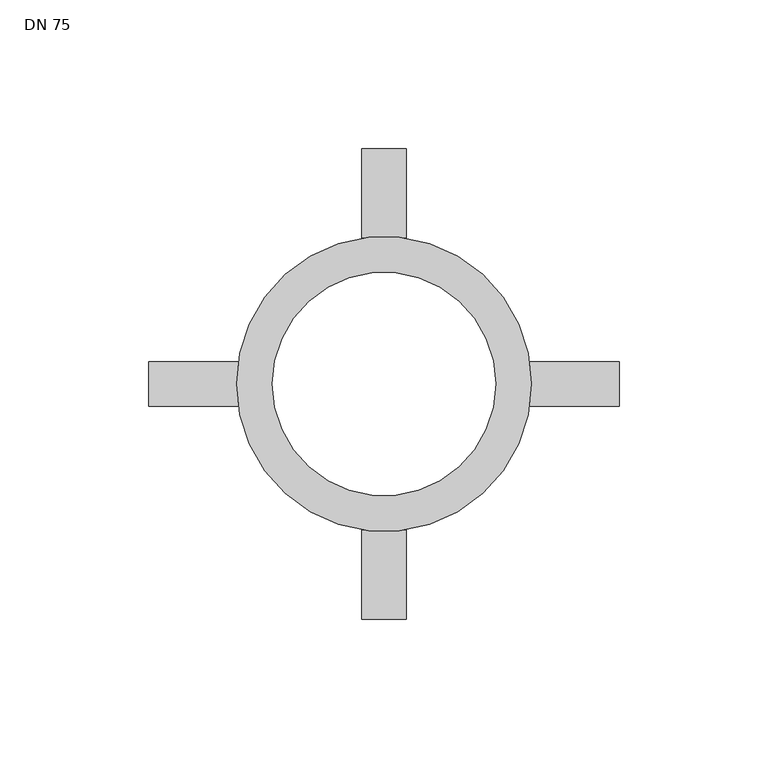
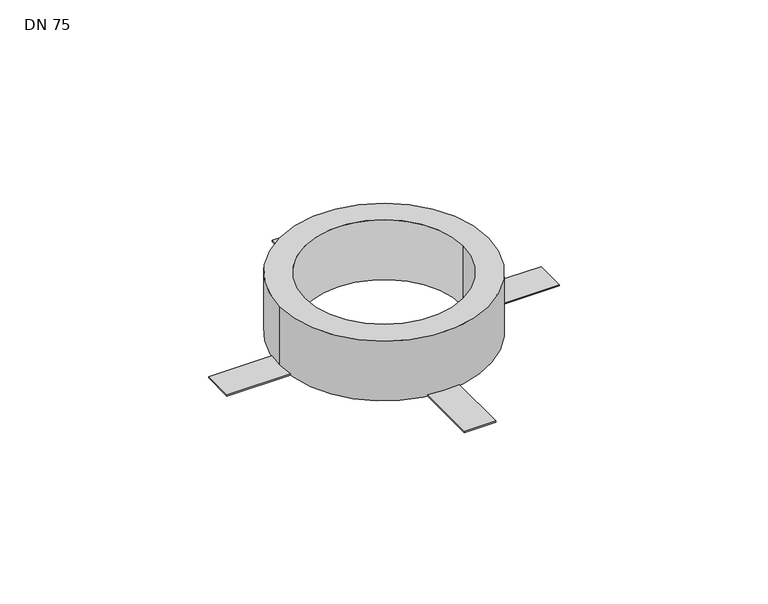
"""IFC4 building model written with IfcOpenShell, lengths in millimetres: proxy geometry, SE_AS+_Fire_Collar_For_Ceilings_Wavin : DN 75."""

from ifc_helpers import new_model, si_unit, point, origin, origin_with_axes, origin_2d, place, context, project, spatial, polyline, circle_curve, trimmed, segment, composite_curve, outline, extrude, source, transform, mapped, element, save


def dn_75_5bf1040d(model_context):
    return source(origin(), model_context, "Body", "SweptSolid", [
        extrude(outline(composite_curve([segment(polyline([(79.0, 7.5), (79.0, -7.5), (48.9285193, -7.5)]), True, "CONTINUOUS"), segment(trimmed(circle_curve(origin_2d(), 49.5), [point((48.9285193, -7.5))], [point((48.9285193, 7.5))], True, "CARTESIAN"), True, "CONTINUOUS"), segment(polyline([(48.9285193, 7.5), (79.0, 7.5)]), True, "CONTINUOUS")], self_intersect=False)), origin_with_axes(), (0.0, 0.0, 1.0), 0.6),
        extrude(outline(composite_curve([segment(polyline([(-7.5, 79.0), (7.5, 79.0), (7.5, 48.9285193)]), True, "CONTINUOUS"), segment(trimmed(circle_curve(origin_2d(), 49.5), [point((7.5, 48.9285193))], [point((-7.5, 48.9285193))], True, "CARTESIAN"), True, "CONTINUOUS"), segment(polyline([(-7.5, 48.9285193), (-7.5, 79.0)]), True, "CONTINUOUS")], self_intersect=False)), origin_with_axes(), (0.0, 0.0, 1.0), 0.6),
        extrude(outline(composite_curve([segment(polyline([(-79.0, -7.5), (-79.0, 7.5), (-48.9285193, 7.5)]), True, "CONTINUOUS"), segment(trimmed(circle_curve(origin_2d(), 49.5), [point((-48.9285193, 7.5))], [point((-48.9285193, -7.5))], True, "CARTESIAN"), True, "CONTINUOUS"), segment(polyline([(-48.9285193, -7.5), (-79.0, -7.5)]), True, "CONTINUOUS")], self_intersect=False)), origin_with_axes(), (0.0, 0.0, 1.0), 0.6),
        extrude(outline(composite_curve([segment(polyline([(7.5, -79.0), (-7.5, -79.0), (-7.5, -48.9285193)]), True, "CONTINUOUS"), segment(trimmed(circle_curve(origin_2d(), 49.5), [point((-7.5, -48.9285193))], [point((7.5, -48.9285193))], True, "CARTESIAN"), True, "CONTINUOUS"), segment(polyline([(7.5, -48.9285193), (7.5, -79.0)]), True, "CONTINUOUS")], self_intersect=False)), origin_with_axes(), (0.0, 0.0, 1.0), 0.6),
        extrude(outline(composite_curve([segment(trimmed(circle_curve(origin_2d(), 49.5), [point((-49.5, 0.0))], [point((49.5, 0.0))], False, "CARTESIAN"), True, "CONTINUOUS"), segment(trimmed(circle_curve(origin_2d(), 49.5), [point((49.5, 0.0))], [point((-49.5, 0.0))], False, "CARTESIAN"), True, "CONTINUOUS")], self_intersect=False), holes=[composite_curve([segment(trimmed(circle_curve(origin_2d(), 37.5), [point((-37.5, 0.0))], [point((37.5, 0.0))], True, "CARTESIAN"), True, "CONTINUOUS"), segment(trimmed(circle_curve(origin_2d(), 37.5), [point((37.5, 0.0))], [point((-37.5, 0.0))], True, "CARTESIAN"), True, "CONTINUOUS")], self_intersect=False)]), origin_with_axes(), (0.0, 0.0, 1.0), 30.0),
    ])


if __name__ == "__main__":
    model = new_model("IFC4")
    model_context = context("Model", 3, world=origin())
    ifc_project = project(units=[si_unit("LENGTHUNIT", "METRE", prefix="MILLI")], contexts=[model_context])
    site = spatial("IfcSite", under=ifc_project)
    building = spatial("IfcBuilding", under=site)
    placement = place(None, origin())
    dn_75_shape = dn_75_5bf1040d(model_context)
    element("IfcBuildingElementProxy", 1, Name="SE_AS+_Fire_Collar_For_Ceilings_Wavin : DN 75", ObjectType="SE_AS+_Fire_Collar_For_Ceilings_Wavin : DN 75", at=placement, inside=building, context=model_context, shape_type="MappedRepresentation", body=[
        mapped(dn_75_shape, transform((0.0, 0.0, 0.0), x_axis=(1.0, 0.0, 0.0), y_axis=(0.0, 1.0, 0.0), z_axis=(0.0, 0.0, 1.0))),
    ])
    save(model, "model.ifc")
